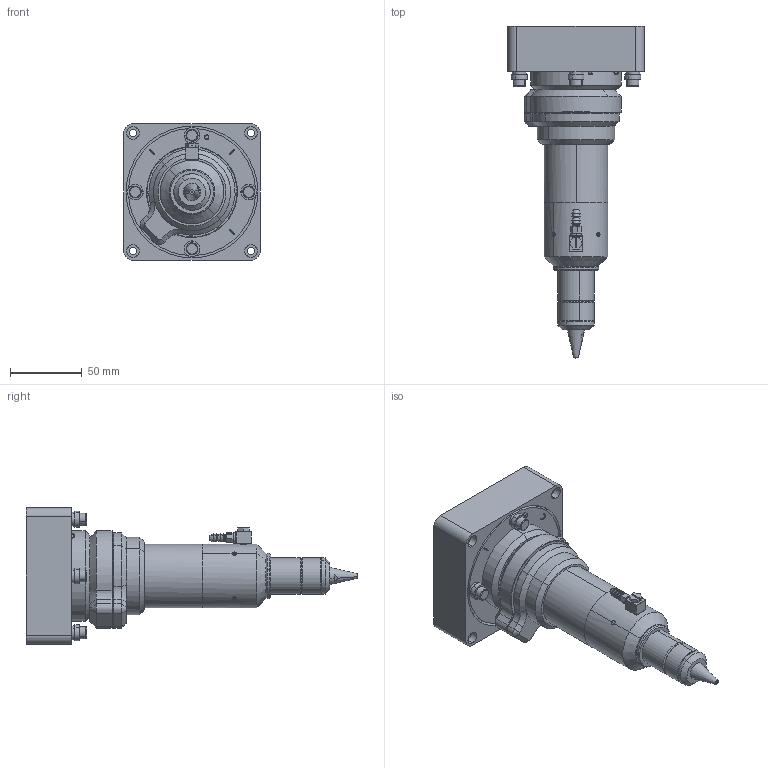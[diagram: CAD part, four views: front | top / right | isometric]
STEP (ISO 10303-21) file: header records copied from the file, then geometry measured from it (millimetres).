
FILE_DESCRIPTION (( 'STEP AP214' ), '1' );
FILE_NAME ('ILH-19-25-089.STEP', '2018-05-15T14:06:56', ( '' ), ( '' ), 'SwSTEP 2.0', 'SolidWorks 2018', '' );
FILE_SCHEMA (( 'AUTOMOTIVE_DESIGN' ));
Length unit declared in the file: inch
Products named in the file (1): ILH-19-25-089
Bounding box: 95.25 x 231.93 x 95.25 mm (x, y, z)
Volume: 577611.2 mm3; surface area: 73207 mm2
Topology: 1 solids, 1 shells, 451 faces, 1006 edges, 583 vertices
Faces by surface type: cylinder 150, plane 117, torus 71, cone 67, bspline 24, sphere 22
Entity records: 21681 total; most frequent: CARTESIAN_POINT 11557, DIRECTION 2298, ORIENTED_EDGE 1960, EDGE_CURVE 980, AXIS2_PLACEMENT_3D 972, VERTEX_POINT 581, CIRCLE 544, EDGE_LOOP 535
